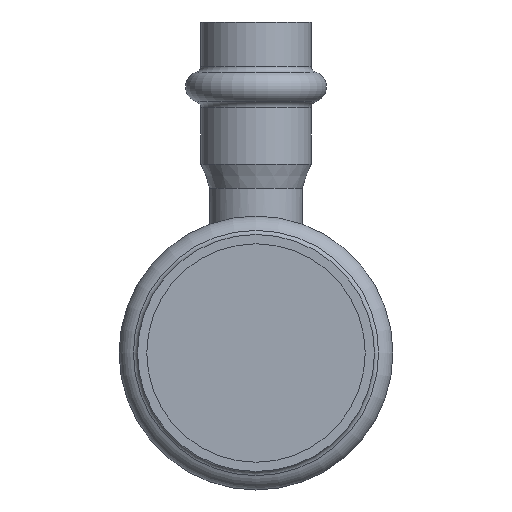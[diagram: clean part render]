
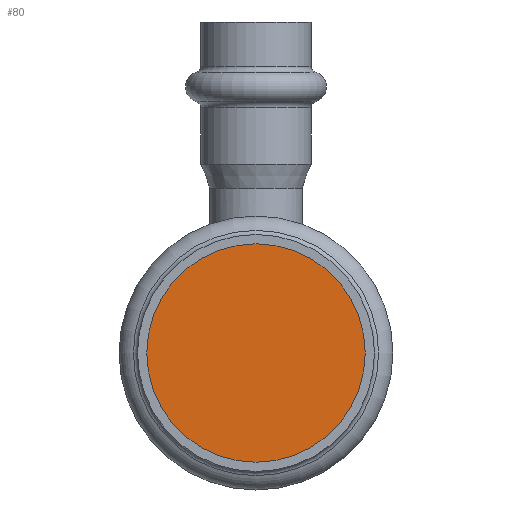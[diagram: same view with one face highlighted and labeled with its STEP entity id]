
A CAD part, front view. The second image highlights one B-rep face of the part: STEP entity #80.
In plain terms, the highlighted planar face has unit normal (0, -1, 0).
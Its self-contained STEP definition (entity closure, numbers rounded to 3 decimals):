
#80=ADVANCED_FACE('',(#325),#327,.T.);
#325=FACE_BOUND('',#326,.T.);
#326=EDGE_LOOP('',(#395));
#327=PLANE('',#328);
#328=AXIS2_PLACEMENT_3D('',#329,#330,#331);
#329=CARTESIAN_POINT('',(0.,-48.743,0.));
#330=DIRECTION('',(0.,-1.,0.));
#331=DIRECTION('',(0.,0.,-1.));
#395=ORIENTED_EDGE('',*,*,#424,.T.);
#424=EDGE_CURVE('',#480,#480,#481,.F.);
#480=VERTEX_POINT('',#779);
#481=CIRCLE('',#780,17.65);
#779=CARTESIAN_POINT('',(0.,-48.743,17.65));
#780=AXIS2_PLACEMENT_3D('',#781,#782,#783);
#781=CARTESIAN_POINT('',(0.,-48.743,0.));
#782=DIRECTION('',(0.,1.,0.));
#783=DIRECTION('',(0.,0.,1.));
